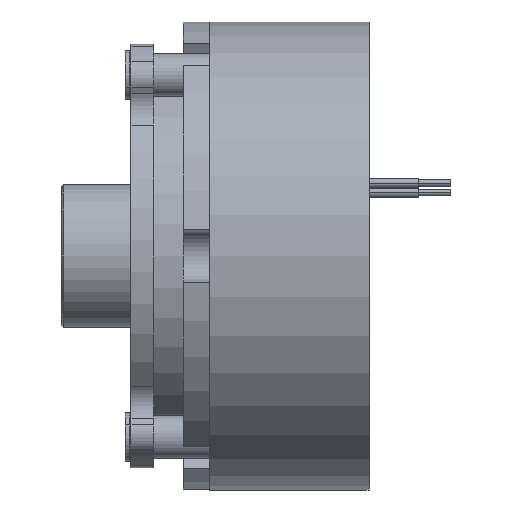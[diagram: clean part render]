
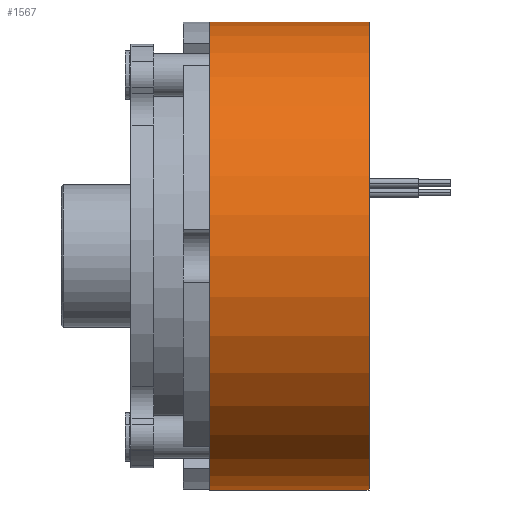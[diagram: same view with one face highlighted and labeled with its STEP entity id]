
A CAD part, front view. The second image highlights one B-rep face of the part: STEP entity #1567.
In plain terms, the highlighted cylindrical face has radius 36 mm (diameter 72 mm), a partial arc.
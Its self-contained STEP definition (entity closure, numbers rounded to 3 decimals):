
#671 = ORIENTED_EDGE ( 'NONE', *, *, #2800, .F. ) ;
#759 = VERTEX_POINT ( 'NONE', #4331 ) ;
#1116 = CARTESIAN_POINT ( 'NONE',  ( 24.5, 0., 36. ) ) ;
#1135 = CIRCLE ( 'NONE', #2263, 36. ) ;
#1154 = CIRCLE ( 'NONE', #3220, 36. ) ;
#1155 = CARTESIAN_POINT ( 'NONE',  ( 24.5, 0., -36. ) ) ;
#1162 = DIRECTION ( 'NONE',  ( -1., 0., 0. ) ) ;
#1195 = DIRECTION ( 'NONE',  ( 0., 0., 1. ) ) ;
#1203 = CARTESIAN_POINT ( 'NONE',  ( 0., 0., 0. ) ) ;
#1211 = LINE ( 'NONE', #3541, #4384 ) ;
#1567 = ADVANCED_FACE ( 'NONE', ( #1933 ), #2019, .T. ) ;
#1582 = LINE ( 'NONE', #3532, #2922 ) ;
#1933 = FACE_OUTER_BOUND ( 'NONE', #2011, .T. ) ;
#2011 = EDGE_LOOP ( 'NONE', ( #4264, #3472, #2844, #671 ) ) ;
#2019 = CYLINDRICAL_SURFACE ( 'NONE', #3295, 36. ) ;
#2263 = AXIS2_PLACEMENT_3D ( 'NONE', #3072, #3065, #3062 ) ;
#2610 = EDGE_CURVE ( 'NONE', #3702, #759, #1211, .T. ) ;
#2621 = EDGE_CURVE ( 'NONE', #3720, #2939, #1582, .T. ) ;
#2730 = CARTESIAN_POINT ( 'NONE',  ( 0., 0., 36. ) ) ;
#2793 = EDGE_CURVE ( 'NONE', #3702, #3720, #1154, .T. ) ;
#2800 = EDGE_CURVE ( 'NONE', #759, #2939, #1135, .T. ) ;
#2844 = ORIENTED_EDGE ( 'NONE', *, *, #2621, .T. ) ;
#2922 = VECTOR ( 'NONE', #3522, 1000. ) ;
#2939 = VERTEX_POINT ( 'NONE', #2730 ) ;
#3062 = DIRECTION ( 'NONE',  ( 0., 0., 1. ) ) ;
#3065 = DIRECTION ( 'NONE',  ( -1., 0., 0. ) ) ;
#3072 = CARTESIAN_POINT ( 'NONE',  ( 0., 0., 0. ) ) ;
#3098 = DIRECTION ( 'NONE',  ( 0., 0., 1. ) ) ;
#3103 = DIRECTION ( 'NONE',  ( -1., 0., 0. ) ) ;
#3104 = CARTESIAN_POINT ( 'NONE',  ( 24.5, 0., 0. ) ) ;
#3220 = AXIS2_PLACEMENT_3D ( 'NONE', #3104, #3103, #3098 ) ;
#3295 = AXIS2_PLACEMENT_3D ( 'NONE', #1203, #1162, #1195 ) ;
#3472 = ORIENTED_EDGE ( 'NONE', *, *, #2793, .T. ) ;
#3522 = DIRECTION ( 'NONE',  ( -1., 0., 0. ) ) ;
#3532 = CARTESIAN_POINT ( 'NONE',  ( 0., 0., 36. ) ) ;
#3536 = DIRECTION ( 'NONE',  ( -1., 0., 0. ) ) ;
#3541 = CARTESIAN_POINT ( 'NONE',  ( 0., 0., -36. ) ) ;
#3702 = VERTEX_POINT ( 'NONE', #1155 ) ;
#3720 = VERTEX_POINT ( 'NONE', #1116 ) ;
#4264 = ORIENTED_EDGE ( 'NONE', *, *, #2610, .F. ) ;
#4331 = CARTESIAN_POINT ( 'NONE',  ( 0., 0., -36. ) ) ;
#4384 = VECTOR ( 'NONE', #3536, 1000. ) ;
